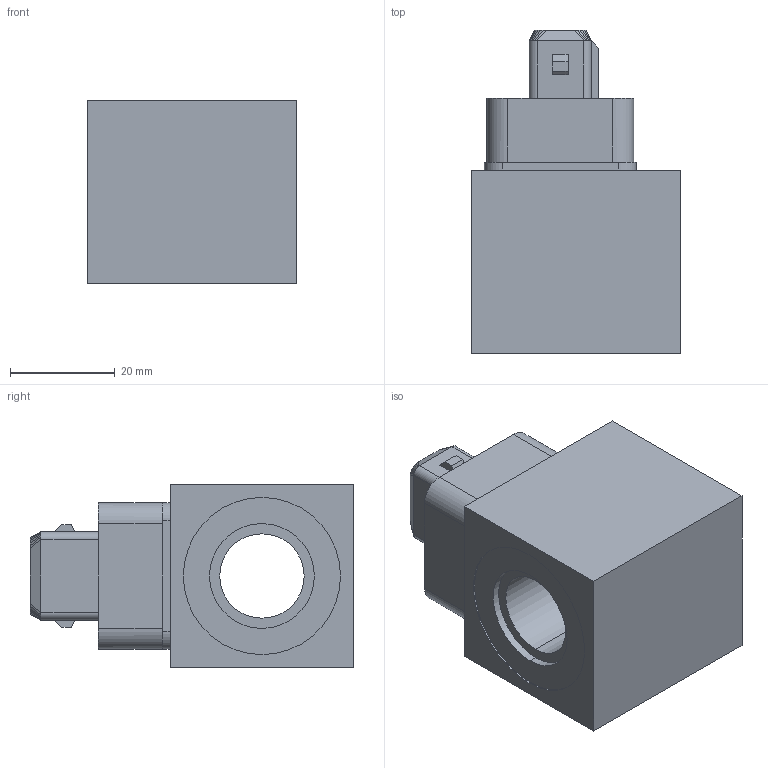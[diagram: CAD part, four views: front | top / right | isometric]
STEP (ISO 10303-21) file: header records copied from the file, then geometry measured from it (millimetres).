
FILE_DESCRIPTION (( 'STEP AP214' ), '1' );
FILE_NAME ('MJE35_16x40.STEP', '2015-07-07T06:10:51', ( '' ), ( '' ), 'SwSTEP 2.0', 'SolidWorks 2014', '' );
FILE_SCHEMA (( 'AUTOMOTIVE_DESIGN' ));
Length unit declared in the file: millimetre
Products named in the file (2): MJE35_16x40
Bounding box: 40 x 61.7 x 35 mm (x, y, z)
Volume: 51417.4 mm3; surface area: 14744.4 mm2
Topology: 1 solids, 9 shells, 319 faces, 810 edges, 530 vertices
Faces by surface type: plane 229, cylinder 82, cone 4, bspline 4
Entity records: 13218 total; most frequent: CARTESIAN_POINT 2076, ORIENTED_EDGE 1620, DIRECTION 1560, EDGE_CURVE 810, LINE 584, VECTOR 584, VERTEX_POINT 530, AXIS2_PLACEMENT_3D 488
